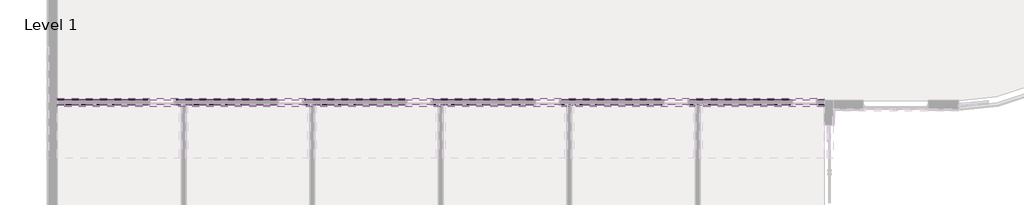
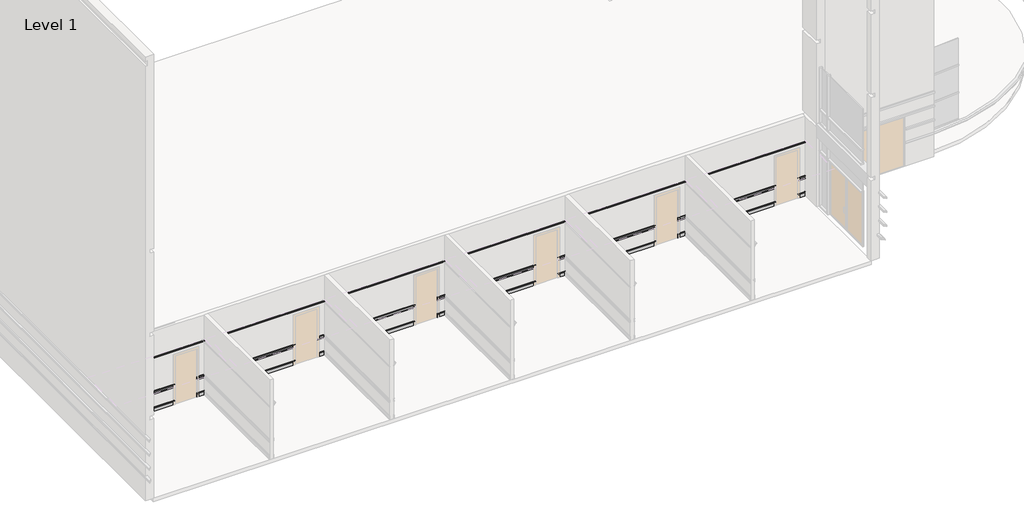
# One storey, part 17 of 20: 6 proxies.
"""IFC4 building model written with IfcOpenShell, lengths in millimetres."""

from ifc_helpers import new_model, si_unit, point, frame, frame_2d, origin, place, context, project, spatial, polyline, circle_curve, trimmed, segment, composite_curve, outline, extrude, element, save

model = new_model("IFC4")

# Units and contexts
model_context = context("Model", 3, world=origin())
ifc_project = project(units=[si_unit("LENGTHUNIT", "METRE", prefix="MILLI")], contexts=[model_context])

# Site, building, storey
site = spatial("IfcSite", under=ifc_project)
building = spatial("IfcBuilding", under=site)
storey = spatial("IfcBuildingStorey", under=building, Name="Level 1", Elevation=0.0)

# Proxies
placement = place(None, origin())
element("IfcBuildingElementProxy", 1, Name="Wall Sweeps", at=placement, inside=storey, context=model_context, shape_type="SweptSolid", body=[
    extrude(outline(composite_curve([segment(polyline([(-9640.0351682, 146.05), (-9637.840893, 146.5164076)]), True, "CONTINUOUS"), segment(trimmed(circle_curve(frame_2d((-9638.0059229, 147.2928122)), 0.79375), [point((-9637.840893, 146.5164076))], [point((-9637.4293377, 147.838329))], True, "CARTESIAN"), True, "CONTINUOUS"), segment(trimmed(circle_curve(frame_2d((-9630.5101681, 154.447453)), 9.5684601), [point((-9637.4293377, 147.838329))], [point((-9638.4249443, 159.8244174))], False, "CARTESIAN"), True, "CONTINUOUS"), segment(polyline([(-9638.4249443, 159.8244174), (-9631.5836514, 169.9015472)]), True, "CONTINUOUS"), segment(trimmed(circle_curve(frame_2d((-9636.8601681, 173.434375)), 6.35), [point((-9631.5836514, 169.9015472))], [point((-9632.9562226, 178.4425393))], True, "CARTESIAN"), True, "CONTINUOUS"), segment(polyline([(-9632.9562226, 178.4425393), (-9630.5101681, 184.15), (-9624.1601681, 184.15), (-9624.1601681, 139.7), (-9625.7476681, 138.1125), (-9625.7476681, 26.9875), (-9624.1601681, 25.4), (-9624.1601681, 0.0), (-9640.0351682, 0.0), (-9640.0351682, 146.05)]), True, "CONTINUOUS")], self_intersect=False)), frame((12403.9089721, 0.0, 0.0), z_axis=(1.0, 0.0, 0.0), x_axis=(0.0, 1.0, 0.0)), (0.0, 0.0, 1.0), 304.8),
    extrude(outline(composite_curve([segment(polyline([(-9640.0351682, 146.05), (-9637.840893, 146.5164076)]), True, "CONTINUOUS"), segment(trimmed(circle_curve(frame_2d((-9638.0059229, 147.2928122)), 0.79375), [point((-9637.840893, 146.5164076))], [point((-9637.4293377, 147.838329))], True, "CARTESIAN"), True, "CONTINUOUS"), segment(trimmed(circle_curve(frame_2d((-9630.5101681, 154.447453)), 9.5684601), [point((-9637.4293377, 147.838329))], [point((-9638.4249443, 159.8244174))], False, "CARTESIAN"), True, "CONTINUOUS"), segment(polyline([(-9638.4249443, 159.8244174), (-9631.5836514, 169.9015472)]), True, "CONTINUOUS"), segment(trimmed(circle_curve(frame_2d((-9636.8601681, 173.434375)), 6.35), [point((-9631.5836514, 169.9015472))], [point((-9632.9562226, 178.4425393))], True, "CARTESIAN"), True, "CONTINUOUS"), segment(polyline([(-9632.9562226, 178.4425393), (-9630.5101681, 184.15), (-9624.1601681, 184.15), (-9624.1601681, 139.7), (-9625.7476681, 138.1125), (-9625.7476681, 26.9875), (-9624.1601681, 25.4), (-9624.1601681, 0.0), (-9640.0351682, 0.0), (-9640.0351682, 146.05)]), True, "CONTINUOUS")], self_intersect=False)), frame((7422.8631388, 0.0, 0.0), z_axis=(1.0, 0.0, 0.0), x_axis=(0.0, 1.0, 0.0)), (0.0, 0.0, 1.0), 4066.6458333),
    extrude(outline(composite_curve([segment(polyline([(-9640.0351682, 146.05), (-9637.840893, 146.5164076)]), True, "CONTINUOUS"), segment(trimmed(circle_curve(frame_2d((-9638.0059229, 147.2928122)), 0.79375), [point((-9637.840893, 146.5164076))], [point((-9637.4293377, 147.838329))], True, "CARTESIAN"), True, "CONTINUOUS"), segment(trimmed(circle_curve(frame_2d((-9630.5101681, 154.447453)), 9.5684601), [point((-9637.4293377, 147.838329))], [point((-9638.4249443, 159.8244174))], False, "CARTESIAN"), True, "CONTINUOUS"), segment(polyline([(-9638.4249443, 159.8244174), (-9631.5836514, 169.9015472)]), True, "CONTINUOUS"), segment(trimmed(circle_curve(frame_2d((-9636.8601681, 173.434375)), 6.35), [point((-9631.5836514, 169.9015472))], [point((-9632.9562226, 178.4425393))], True, "CARTESIAN"), True, "CONTINUOUS"), segment(polyline([(-9632.9562226, 178.4425393), (-9630.5101681, 184.15), (-9624.1601681, 184.15), (-9624.1601681, 139.7), (-9625.7476681, 138.1125), (-9625.7476681, 26.9875), (-9624.1601681, 25.4), (-9624.1601681, 0.0), (-9640.0351682, 0.0), (-9640.0351682, 146.05)]), True, "CONTINUOUS")], self_intersect=False)), frame((2430.7048054, 0.0, 0.0), z_axis=(1.0, 0.0, 0.0), x_axis=(0.0, 1.0, 0.0)), (0.0, 0.0, 1.0), 4077.7583333),
    extrude(outline(composite_curve([segment(polyline([(-9640.0351682, 146.05), (-9637.840893, 146.5164076)]), True, "CONTINUOUS"), segment(trimmed(circle_curve(frame_2d((-9638.0059229, 147.2928122)), 0.79375), [point((-9637.840893, 146.5164076))], [point((-9637.4293377, 147.838329))], True, "CARTESIAN"), True, "CONTINUOUS"), segment(trimmed(circle_curve(frame_2d((-9630.5101681, 154.447453)), 9.5684601), [point((-9637.4293377, 147.838329))], [point((-9638.4249443, 159.8244174))], False, "CARTESIAN"), True, "CONTINUOUS"), segment(polyline([(-9638.4249443, 159.8244174), (-9631.5836514, 169.9015472)]), True, "CONTINUOUS"), segment(trimmed(circle_curve(frame_2d((-9636.8601681, 173.434375)), 6.35), [point((-9631.5836514, 169.9015472))], [point((-9632.9562226, 178.4425393))], True, "CARTESIAN"), True, "CONTINUOUS"), segment(polyline([(-9632.9562226, 178.4425393), (-9630.5101681, 184.15), (-9624.1601681, 184.15), (-9624.1601681, 139.7), (-9625.7476681, 138.1125), (-9625.7476681, 26.9875), (-9624.1601681, 25.4), (-9624.1601681, 0.0), (-9640.0351682, 0.0), (-9640.0351682, 146.05)]), True, "CONTINUOUS")], self_intersect=False)), frame((-2561.4535279, 0.0, 0.0), z_axis=(1.0, 0.0, 0.0), x_axis=(0.0, 1.0, 0.0)), (0.0, 0.0, 1.0), 4077.7583333),
    extrude(outline(composite_curve([segment(polyline([(-9640.0351682, 146.05), (-9637.840893, 146.5164076)]), True, "CONTINUOUS"), segment(trimmed(circle_curve(frame_2d((-9638.0059229, 147.2928122)), 0.79375), [point((-9637.840893, 146.5164076))], [point((-9637.4293377, 147.838329))], True, "CARTESIAN"), True, "CONTINUOUS"), segment(trimmed(circle_curve(frame_2d((-9630.5101681, 154.447453)), 9.5684601), [point((-9637.4293377, 147.838329))], [point((-9638.4249443, 159.8244174))], False, "CARTESIAN"), True, "CONTINUOUS"), segment(polyline([(-9638.4249443, 159.8244174), (-9631.5836514, 169.9015472)]), True, "CONTINUOUS"), segment(trimmed(circle_curve(frame_2d((-9636.8601681, 173.434375)), 6.35), [point((-9631.5836514, 169.9015472))], [point((-9632.9562226, 178.4425393))], True, "CARTESIAN"), True, "CONTINUOUS"), segment(polyline([(-9632.9562226, 178.4425393), (-9630.5101681, 184.15), (-9624.1601681, 184.15), (-9624.1601681, 139.7), (-9625.7476681, 138.1125), (-9625.7476681, 26.9875), (-9624.1601681, 25.4), (-9624.1601681, 0.0), (-9640.0351682, 0.0), (-9640.0351682, 146.05)]), True, "CONTINUOUS")], self_intersect=False)), frame((-7553.6118612, 0.0, 0.0), z_axis=(1.0, 0.0, 0.0), x_axis=(0.0, 1.0, 0.0)), (0.0, 0.0, 1.0), 4077.7583333),
    extrude(outline(composite_curve([segment(polyline([(-9640.0351682, 146.05), (-9637.840893, 146.5164076)]), True, "CONTINUOUS"), segment(trimmed(circle_curve(frame_2d((-9638.0059229, 147.2928122)), 0.79375), [point((-9637.840893, 146.5164076))], [point((-9637.4293377, 147.838329))], True, "CARTESIAN"), True, "CONTINUOUS"), segment(trimmed(circle_curve(frame_2d((-9630.5101681, 154.447453)), 9.5684601), [point((-9637.4293377, 147.838329))], [point((-9638.4249443, 159.8244174))], False, "CARTESIAN"), True, "CONTINUOUS"), segment(polyline([(-9638.4249443, 159.8244174), (-9631.5836514, 169.9015472)]), True, "CONTINUOUS"), segment(trimmed(circle_curve(frame_2d((-9636.8601681, 173.434375)), 6.35), [point((-9631.5836514, 169.9015472))], [point((-9632.9562226, 178.4425393))], True, "CARTESIAN"), True, "CONTINUOUS"), segment(polyline([(-9632.9562226, 178.4425393), (-9630.5101681, 184.15), (-9624.1601681, 184.15), (-9624.1601681, 139.7), (-9625.7476681, 138.1125), (-9625.7476681, 26.9875), (-9624.1601681, 25.4), (-9624.1601681, 0.0), (-9640.0351682, 0.0), (-9640.0351682, 146.05)]), True, "CONTINUOUS")], self_intersect=False)), frame((-12545.7701946, 0.0, 0.0), z_axis=(1.0, 0.0, 0.0), x_axis=(0.0, 1.0, 0.0)), (0.0, 0.0, 1.0), 4077.7583333),
    extrude(outline(composite_curve([segment(polyline([(-9640.0351682, 146.05), (-9637.840893, 146.5164076)]), True, "CONTINUOUS"), segment(trimmed(circle_curve(frame_2d((-9638.0059229, 147.2928122)), 0.79375), [point((-9637.840893, 146.5164076))], [point((-9637.4293377, 147.838329))], True, "CARTESIAN"), True, "CONTINUOUS"), segment(trimmed(circle_curve(frame_2d((-9630.5101681, 154.447453)), 9.5684601), [point((-9637.4293377, 147.838329))], [point((-9638.4249443, 159.8244174))], False, "CARTESIAN"), True, "CONTINUOUS"), segment(polyline([(-9638.4249443, 159.8244174), (-9631.5836514, 169.9015472)]), True, "CONTINUOUS"), segment(trimmed(circle_curve(frame_2d((-9636.8601681, 173.434375)), 6.35), [point((-9631.5836514, 169.9015472))], [point((-9632.9562226, 178.4425393))], True, "CARTESIAN"), True, "CONTINUOUS"), segment(polyline([(-9632.9562226, 178.4425393), (-9630.5101681, 184.15), (-9624.1601681, 184.15), (-9624.1601681, 139.7), (-9625.7476681, 138.1125), (-9625.7476681, 26.9875), (-9624.1601681, 25.4), (-9624.1601681, 0.0), (-9640.0351682, 0.0), (-9640.0351682, 146.05)]), True, "CONTINUOUS")], self_intersect=False)), frame((-17066.4410279, 0.0, 0.0), z_axis=(1.0, 0.0, 0.0), x_axis=(0.0, 1.0, 0.0)), (0.0, 0.0, 1.0), 3606.2708333),
])
element("IfcBuildingElementProxy", 2, Name="Wall Sweeps", at=placement, inside=storey, context=model_context, shape_type="SweptSolid", body=[
    extrude(outline(composite_curve([segment(polyline([(-9452.710168, 146.05), (-9452.710168, 0.0), (-9468.5851681, 0.0), (-9468.5851681, 25.4), (-9466.9976681, 26.9875), (-9466.9976681, 138.1125), (-9468.5851681, 139.7), (-9468.5851681, 184.15), (-9462.2351681, 184.15), (-9459.7891135, 178.4425393)]), True, "CONTINUOUS"), segment(trimmed(circle_curve(frame_2d((-9455.8851681, 173.434375)), 6.35), [point((-9459.7891135, 178.4425393))], [point((-9461.1616847, 169.9015472))], True, "CARTESIAN"), True, "CONTINUOUS"), segment(polyline([(-9461.1616847, 169.9015472), (-9454.3203919, 159.8244174)]), True, "CONTINUOUS"), segment(trimmed(circle_curve(frame_2d((-9462.2351681, 154.447453)), 9.5684601), [point((-9454.3203919, 159.8244174))], [point((-9455.3159985, 147.838329))], False, "CARTESIAN"), True, "CONTINUOUS"), segment(trimmed(circle_curve(frame_2d((-9454.7394132, 147.2928122)), 0.79375), [point((-9455.3159985, 147.838329))], [point((-9454.9044431, 146.5164076))], True, "CARTESIAN"), True, "CONTINUOUS"), segment(polyline([(-9454.9044431, 146.5164076), (-9452.710168, 146.05)]), True, "CONTINUOUS")], self_intersect=False)), frame((-17066.4410279, 0.0, 0.0), z_axis=(1.0, 0.0, 0.0), x_axis=(0.0, 1.0, 0.0)), (0.0, 0.0, 1.0), 3606.2708333),
    extrude(outline(composite_curve([segment(polyline([(-9452.710168, 146.05), (-9452.710168, 0.0), (-9468.5851681, 0.0), (-9468.5851681, 25.4), (-9466.9976681, 26.9875), (-9466.9976681, 138.1125), (-9468.5851681, 139.7), (-9468.5851681, 184.15), (-9462.2351681, 184.15), (-9459.7891135, 178.4425393)]), True, "CONTINUOUS"), segment(trimmed(circle_curve(frame_2d((-9455.8851681, 173.434375)), 6.35), [point((-9459.7891135, 178.4425393))], [point((-9461.1616847, 169.9015472))], True, "CARTESIAN"), True, "CONTINUOUS"), segment(polyline([(-9461.1616847, 169.9015472), (-9454.3203919, 159.8244174)]), True, "CONTINUOUS"), segment(trimmed(circle_curve(frame_2d((-9462.2351681, 154.447453)), 9.5684601), [point((-9454.3203919, 159.8244174))], [point((-9455.3159985, 147.838329))], False, "CARTESIAN"), True, "CONTINUOUS"), segment(trimmed(circle_curve(frame_2d((-9454.7394132, 147.2928122)), 0.79375), [point((-9455.3159985, 147.838329))], [point((-9454.9044431, 146.5164076))], True, "CARTESIAN"), True, "CONTINUOUS"), segment(polyline([(-9454.9044431, 146.5164076), (-9452.710168, 146.05)]), True, "CONTINUOUS")], self_intersect=False)), frame((-12545.7701946, 0.0, 0.0), z_axis=(1.0, 0.0, 0.0), x_axis=(0.0, 1.0, 0.0)), (0.0, 0.0, 1.0), 4077.7583333),
    extrude(outline(composite_curve([segment(polyline([(-9452.710168, 146.05), (-9452.710168, 0.0), (-9468.5851681, 0.0), (-9468.5851681, 25.4), (-9466.9976681, 26.9875), (-9466.9976681, 138.1125), (-9468.5851681, 139.7), (-9468.5851681, 184.15), (-9462.2351681, 184.15), (-9459.7891135, 178.4425393)]), True, "CONTINUOUS"), segment(trimmed(circle_curve(frame_2d((-9455.8851681, 173.434375)), 6.35), [point((-9459.7891135, 178.4425393))], [point((-9461.1616847, 169.9015472))], True, "CARTESIAN"), True, "CONTINUOUS"), segment(polyline([(-9461.1616847, 169.9015472), (-9454.3203919, 159.8244174)]), True, "CONTINUOUS"), segment(trimmed(circle_curve(frame_2d((-9462.2351681, 154.447453)), 9.5684601), [point((-9454.3203919, 159.8244174))], [point((-9455.3159985, 147.838329))], False, "CARTESIAN"), True, "CONTINUOUS"), segment(trimmed(circle_curve(frame_2d((-9454.7394132, 147.2928122)), 0.79375), [point((-9455.3159985, 147.838329))], [point((-9454.9044431, 146.5164076))], True, "CARTESIAN"), True, "CONTINUOUS"), segment(polyline([(-9454.9044431, 146.5164076), (-9452.710168, 146.05)]), True, "CONTINUOUS")], self_intersect=False)), frame((-7553.6118612, 0.0, 0.0), z_axis=(1.0, 0.0, 0.0), x_axis=(0.0, 1.0, 0.0)), (0.0, 0.0, 1.0), 4077.7583333),
    extrude(outline(composite_curve([segment(polyline([(-9452.710168, 146.05), (-9452.710168, 0.0), (-9468.5851681, 0.0), (-9468.5851681, 25.4), (-9466.9976681, 26.9875), (-9466.9976681, 138.1125), (-9468.5851681, 139.7), (-9468.5851681, 184.15), (-9462.2351681, 184.15), (-9459.7891135, 178.4425393)]), True, "CONTINUOUS"), segment(trimmed(circle_curve(frame_2d((-9455.8851681, 173.434375)), 6.35), [point((-9459.7891135, 178.4425393))], [point((-9461.1616847, 169.9015472))], True, "CARTESIAN"), True, "CONTINUOUS"), segment(polyline([(-9461.1616847, 169.9015472), (-9454.3203919, 159.8244174)]), True, "CONTINUOUS"), segment(trimmed(circle_curve(frame_2d((-9462.2351681, 154.447453)), 9.5684601), [point((-9454.3203919, 159.8244174))], [point((-9455.3159985, 147.838329))], False, "CARTESIAN"), True, "CONTINUOUS"), segment(trimmed(circle_curve(frame_2d((-9454.7394132, 147.2928122)), 0.79375), [point((-9455.3159985, 147.838329))], [point((-9454.9044431, 146.5164076))], True, "CARTESIAN"), True, "CONTINUOUS"), segment(polyline([(-9454.9044431, 146.5164076), (-9452.710168, 146.05)]), True, "CONTINUOUS")], self_intersect=False)), frame((-2561.4535279, 0.0, 0.0), z_axis=(1.0, 0.0, 0.0), x_axis=(0.0, 1.0, 0.0)), (0.0, 0.0, 1.0), 4077.7583333),
    extrude(outline(composite_curve([segment(polyline([(-9452.710168, 146.05), (-9452.710168, 0.0), (-9468.5851681, 0.0), (-9468.5851681, 25.4), (-9466.9976681, 26.9875), (-9466.9976681, 138.1125), (-9468.5851681, 139.7), (-9468.5851681, 184.15), (-9462.2351681, 184.15), (-9459.7891135, 178.4425393)]), True, "CONTINUOUS"), segment(trimmed(circle_curve(frame_2d((-9455.8851681, 173.434375)), 6.35), [point((-9459.7891135, 178.4425393))], [point((-9461.1616847, 169.9015472))], True, "CARTESIAN"), True, "CONTINUOUS"), segment(polyline([(-9461.1616847, 169.9015472), (-9454.3203919, 159.8244174)]), True, "CONTINUOUS"), segment(trimmed(circle_curve(frame_2d((-9462.2351681, 154.447453)), 9.5684601), [point((-9454.3203919, 159.8244174))], [point((-9455.3159985, 147.838329))], False, "CARTESIAN"), True, "CONTINUOUS"), segment(trimmed(circle_curve(frame_2d((-9454.7394132, 147.2928122)), 0.79375), [point((-9455.3159985, 147.838329))], [point((-9454.9044431, 146.5164076))], True, "CARTESIAN"), True, "CONTINUOUS"), segment(polyline([(-9454.9044431, 146.5164076), (-9452.710168, 146.05)]), True, "CONTINUOUS")], self_intersect=False)), frame((2430.7048054, 0.0, 0.0), z_axis=(1.0, 0.0, 0.0), x_axis=(0.0, 1.0, 0.0)), (0.0, 0.0, 1.0), 4077.7583333),
    extrude(outline(composite_curve([segment(polyline([(-9452.710168, 146.05), (-9452.710168, 0.0), (-9468.5851681, 0.0), (-9468.5851681, 25.4), (-9466.9976681, 26.9875), (-9466.9976681, 138.1125), (-9468.5851681, 139.7), (-9468.5851681, 184.15), (-9462.2351681, 184.15), (-9459.7891135, 178.4425393)]), True, "CONTINUOUS"), segment(trimmed(circle_curve(frame_2d((-9455.8851681, 173.434375)), 6.35), [point((-9459.7891135, 178.4425393))], [point((-9461.1616847, 169.9015472))], True, "CARTESIAN"), True, "CONTINUOUS"), segment(polyline([(-9461.1616847, 169.9015472), (-9454.3203919, 159.8244174)]), True, "CONTINUOUS"), segment(trimmed(circle_curve(frame_2d((-9462.2351681, 154.447453)), 9.5684601), [point((-9454.3203919, 159.8244174))], [point((-9455.3159985, 147.838329))], False, "CARTESIAN"), True, "CONTINUOUS"), segment(trimmed(circle_curve(frame_2d((-9454.7394132, 147.2928122)), 0.79375), [point((-9455.3159985, 147.838329))], [point((-9454.9044431, 146.5164076))], True, "CARTESIAN"), True, "CONTINUOUS"), segment(polyline([(-9454.9044431, 146.5164076), (-9452.710168, 146.05)]), True, "CONTINUOUS")], self_intersect=False)), frame((7422.8631388, 0.0, 0.0), z_axis=(1.0, 0.0, 0.0), x_axis=(0.0, 1.0, 0.0)), (0.0, 0.0, 1.0), 4066.6458333),
    extrude(outline(composite_curve([segment(polyline([(-9452.710168, 146.05), (-9452.710168, 0.0), (-9468.5851681, 0.0), (-9468.5851681, 25.4), (-9466.9976681, 26.9875), (-9466.9976681, 138.1125), (-9468.5851681, 139.7), (-9468.5851681, 184.15), (-9462.2351681, 184.15), (-9459.7891135, 178.4425393)]), True, "CONTINUOUS"), segment(trimmed(circle_curve(frame_2d((-9455.8851681, 173.434375)), 6.35), [point((-9459.7891135, 178.4425393))], [point((-9461.1616847, 169.9015472))], True, "CARTESIAN"), True, "CONTINUOUS"), segment(polyline([(-9461.1616847, 169.9015472), (-9454.3203919, 159.8244174)]), True, "CONTINUOUS"), segment(trimmed(circle_curve(frame_2d((-9462.2351681, 154.447453)), 9.5684601), [point((-9454.3203919, 159.8244174))], [point((-9455.3159985, 147.838329))], False, "CARTESIAN"), True, "CONTINUOUS"), segment(trimmed(circle_curve(frame_2d((-9454.7394132, 147.2928122)), 0.79375), [point((-9455.3159985, 147.838329))], [point((-9454.9044431, 146.5164076))], True, "CARTESIAN"), True, "CONTINUOUS"), segment(polyline([(-9454.9044431, 146.5164076), (-9452.710168, 146.05)]), True, "CONTINUOUS")], self_intersect=False)), frame((12403.9089721, 0.0, 0.0), z_axis=(1.0, 0.0, 0.0), x_axis=(0.0, 1.0, 0.0)), (0.0, 0.0, 1.0), 304.8),
])
element("IfcBuildingElementProxy", 3, Name="Wall Sweeps", at=placement, inside=storey, context=model_context, shape_type="SweptSolid", body=[
    extrude(outline(composite_curve([segment(polyline([(-9625.7476681, 781.05), (-9624.1601681, 779.4625), (-9624.1601681, 762.0), (-9644.7976681, 762.0), (-9644.7976681, 781.05), (-9642.4164181, 781.05)]), True, "CONTINUOUS"), segment(trimmed(circle_curve(frame_2d((-9637.3963023, 783.43125)), 5.55625), [point((-9642.4164181, 781.05))], [point((-9641.3251643, 787.3601121))], False, "CARTESIAN"), True, "CONTINUOUS"), segment(trimmed(circle_curve(frame_2d((-9649.1119874, 796.1135672)), 11.7156984), [point((-9641.3251643, 787.3601121))], [point((-9637.3963023, 796.13125))], True, "CARTESIAN"), True, "CONTINUOUS"), segment(polyline([(-9637.3963023, 796.13125), (-9635.2726681, 796.13125), (-9635.2726681, 867.56875), (-9637.3963023, 867.56875)]), True, "CONTINUOUS"), segment(trimmed(circle_curve(frame_2d((-9649.1119874, 867.5864328)), 11.7156984), [point((-9637.3963023, 867.56875))], [point((-9641.3251643, 876.3398879))], True, "CARTESIAN"), True, "CONTINUOUS"), segment(trimmed(circle_curve(frame_2d((-9637.3963023, 880.26875)), 5.55625), [point((-9641.3251643, 876.3398879))], [point((-9642.4164181, 882.65))], False, "CARTESIAN"), True, "CONTINUOUS"), segment(polyline([(-9642.4164181, 882.65), (-9644.7976681, 882.65), (-9644.7976681, 901.7), (-9624.1601681, 901.7), (-9624.1601681, 884.2375), (-9625.7476681, 882.65), (-9625.7476681, 781.05)]), True, "CONTINUOUS")], self_intersect=False)), frame((12403.9089721, 0.0, 0.0), z_axis=(1.0, 0.0, 0.0), x_axis=(0.0, 1.0, 0.0)), (0.0, 0.0, 1.0), 304.8),
    extrude(outline(composite_curve([segment(polyline([(-9625.7476681, 781.05), (-9624.1601681, 779.4625), (-9624.1601681, 762.0), (-9644.7976681, 762.0), (-9644.7976681, 781.05), (-9642.4164181, 781.05)]), True, "CONTINUOUS"), segment(trimmed(circle_curve(frame_2d((-9637.3963023, 783.43125)), 5.55625), [point((-9642.4164181, 781.05))], [point((-9641.3251643, 787.3601121))], False, "CARTESIAN"), True, "CONTINUOUS"), segment(trimmed(circle_curve(frame_2d((-9649.1119874, 796.1135672)), 11.7156984), [point((-9641.3251643, 787.3601121))], [point((-9637.3963023, 796.13125))], True, "CARTESIAN"), True, "CONTINUOUS"), segment(polyline([(-9637.3963023, 796.13125), (-9635.2726681, 796.13125), (-9635.2726681, 867.56875), (-9637.3963023, 867.56875)]), True, "CONTINUOUS"), segment(trimmed(circle_curve(frame_2d((-9649.1119874, 867.5864328)), 11.7156984), [point((-9637.3963023, 867.56875))], [point((-9641.3251643, 876.3398879))], True, "CARTESIAN"), True, "CONTINUOUS"), segment(trimmed(circle_curve(frame_2d((-9637.3963023, 880.26875)), 5.55625), [point((-9641.3251643, 876.3398879))], [point((-9642.4164181, 882.65))], False, "CARTESIAN"), True, "CONTINUOUS"), segment(polyline([(-9642.4164181, 882.65), (-9644.7976681, 882.65), (-9644.7976681, 901.7), (-9624.1601681, 901.7), (-9624.1601681, 884.2375), (-9625.7476681, 882.65), (-9625.7476681, 781.05)]), True, "CONTINUOUS")], self_intersect=False)), frame((7422.8631388, 0.0, 0.0), z_axis=(1.0, 0.0, 0.0), x_axis=(0.0, 1.0, 0.0)), (0.0, 0.0, 1.0), 4066.6458333),
    extrude(outline(composite_curve([segment(polyline([(-9625.7476681, 781.05), (-9624.1601681, 779.4625), (-9624.1601681, 762.0), (-9644.7976681, 762.0), (-9644.7976681, 781.05), (-9642.4164181, 781.05)]), True, "CONTINUOUS"), segment(trimmed(circle_curve(frame_2d((-9637.3963023, 783.43125)), 5.55625), [point((-9642.4164181, 781.05))], [point((-9641.3251643, 787.3601121))], False, "CARTESIAN"), True, "CONTINUOUS"), segment(trimmed(circle_curve(frame_2d((-9649.1119874, 796.1135672)), 11.7156984), [point((-9641.3251643, 787.3601121))], [point((-9637.3963023, 796.13125))], True, "CARTESIAN"), True, "CONTINUOUS"), segment(polyline([(-9637.3963023, 796.13125), (-9635.2726681, 796.13125), (-9635.2726681, 867.56875), (-9637.3963023, 867.56875)]), True, "CONTINUOUS"), segment(trimmed(circle_curve(frame_2d((-9649.1119874, 867.5864328)), 11.7156984), [point((-9637.3963023, 867.56875))], [point((-9641.3251643, 876.3398879))], True, "CARTESIAN"), True, "CONTINUOUS"), segment(trimmed(circle_curve(frame_2d((-9637.3963023, 880.26875)), 5.55625), [point((-9641.3251643, 876.3398879))], [point((-9642.4164181, 882.65))], False, "CARTESIAN"), True, "CONTINUOUS"), segment(polyline([(-9642.4164181, 882.65), (-9644.7976681, 882.65), (-9644.7976681, 901.7), (-9624.1601681, 901.7), (-9624.1601681, 884.2375), (-9625.7476681, 882.65), (-9625.7476681, 781.05)]), True, "CONTINUOUS")], self_intersect=False)), frame((2430.7048054, 0.0, 0.0), z_axis=(1.0, 0.0, 0.0), x_axis=(0.0, 1.0, 0.0)), (0.0, 0.0, 1.0), 4077.7583333),
    extrude(outline(composite_curve([segment(polyline([(-9625.7476681, 781.05), (-9624.1601681, 779.4625), (-9624.1601681, 762.0), (-9644.7976681, 762.0), (-9644.7976681, 781.05), (-9642.4164181, 781.05)]), True, "CONTINUOUS"), segment(trimmed(circle_curve(frame_2d((-9637.3963023, 783.43125)), 5.55625), [point((-9642.4164181, 781.05))], [point((-9641.3251643, 787.3601121))], False, "CARTESIAN"), True, "CONTINUOUS"), segment(trimmed(circle_curve(frame_2d((-9649.1119874, 796.1135672)), 11.7156984), [point((-9641.3251643, 787.3601121))], [point((-9637.3963023, 796.13125))], True, "CARTESIAN"), True, "CONTINUOUS"), segment(polyline([(-9637.3963023, 796.13125), (-9635.2726681, 796.13125), (-9635.2726681, 867.56875), (-9637.3963023, 867.56875)]), True, "CONTINUOUS"), segment(trimmed(circle_curve(frame_2d((-9649.1119874, 867.5864328)), 11.7156984), [point((-9637.3963023, 867.56875))], [point((-9641.3251643, 876.3398879))], True, "CARTESIAN"), True, "CONTINUOUS"), segment(trimmed(circle_curve(frame_2d((-9637.3963023, 880.26875)), 5.55625), [point((-9641.3251643, 876.3398879))], [point((-9642.4164181, 882.65))], False, "CARTESIAN"), True, "CONTINUOUS"), segment(polyline([(-9642.4164181, 882.65), (-9644.7976681, 882.65), (-9644.7976681, 901.7), (-9624.1601681, 901.7), (-9624.1601681, 884.2375), (-9625.7476681, 882.65), (-9625.7476681, 781.05)]), True, "CONTINUOUS")], self_intersect=False)), frame((-2561.4535279, 0.0, 0.0), z_axis=(1.0, 0.0, 0.0), x_axis=(0.0, 1.0, 0.0)), (0.0, 0.0, 1.0), 4077.7583333),
    extrude(outline(composite_curve([segment(polyline([(-9625.7476681, 781.05), (-9624.1601681, 779.4625), (-9624.1601681, 762.0), (-9644.7976681, 762.0), (-9644.7976681, 781.05), (-9642.4164181, 781.05)]), True, "CONTINUOUS"), segment(trimmed(circle_curve(frame_2d((-9637.3963023, 783.43125)), 5.55625), [point((-9642.4164181, 781.05))], [point((-9641.3251643, 787.3601121))], False, "CARTESIAN"), True, "CONTINUOUS"), segment(trimmed(circle_curve(frame_2d((-9649.1119874, 796.1135672)), 11.7156984), [point((-9641.3251643, 787.3601121))], [point((-9637.3963023, 796.13125))], True, "CARTESIAN"), True, "CONTINUOUS"), segment(polyline([(-9637.3963023, 796.13125), (-9635.2726681, 796.13125), (-9635.2726681, 867.56875), (-9637.3963023, 867.56875)]), True, "CONTINUOUS"), segment(trimmed(circle_curve(frame_2d((-9649.1119874, 867.5864328)), 11.7156984), [point((-9637.3963023, 867.56875))], [point((-9641.3251643, 876.3398879))], True, "CARTESIAN"), True, "CONTINUOUS"), segment(trimmed(circle_curve(frame_2d((-9637.3963023, 880.26875)), 5.55625), [point((-9641.3251643, 876.3398879))], [point((-9642.4164181, 882.65))], False, "CARTESIAN"), True, "CONTINUOUS"), segment(polyline([(-9642.4164181, 882.65), (-9644.7976681, 882.65), (-9644.7976681, 901.7), (-9624.1601681, 901.7), (-9624.1601681, 884.2375), (-9625.7476681, 882.65), (-9625.7476681, 781.05)]), True, "CONTINUOUS")], self_intersect=False)), frame((-7553.6118612, 0.0, 0.0), z_axis=(1.0, 0.0, 0.0), x_axis=(0.0, 1.0, 0.0)), (0.0, 0.0, 1.0), 4077.7583333),
    extrude(outline(composite_curve([segment(polyline([(-9625.7476681, 781.05), (-9624.1601681, 779.4625), (-9624.1601681, 762.0), (-9644.7976681, 762.0), (-9644.7976681, 781.05), (-9642.4164181, 781.05)]), True, "CONTINUOUS"), segment(trimmed(circle_curve(frame_2d((-9637.3963023, 783.43125)), 5.55625), [point((-9642.4164181, 781.05))], [point((-9641.3251643, 787.3601121))], False, "CARTESIAN"), True, "CONTINUOUS"), segment(trimmed(circle_curve(frame_2d((-9649.1119874, 796.1135672)), 11.7156984), [point((-9641.3251643, 787.3601121))], [point((-9637.3963023, 796.13125))], True, "CARTESIAN"), True, "CONTINUOUS"), segment(polyline([(-9637.3963023, 796.13125), (-9635.2726681, 796.13125), (-9635.2726681, 867.56875), (-9637.3963023, 867.56875)]), True, "CONTINUOUS"), segment(trimmed(circle_curve(frame_2d((-9649.1119874, 867.5864328)), 11.7156984), [point((-9637.3963023, 867.56875))], [point((-9641.3251643, 876.3398879))], True, "CARTESIAN"), True, "CONTINUOUS"), segment(trimmed(circle_curve(frame_2d((-9637.3963023, 880.26875)), 5.55625), [point((-9641.3251643, 876.3398879))], [point((-9642.4164181, 882.65))], False, "CARTESIAN"), True, "CONTINUOUS"), segment(polyline([(-9642.4164181, 882.65), (-9644.7976681, 882.65), (-9644.7976681, 901.7), (-9624.1601681, 901.7), (-9624.1601681, 884.2375), (-9625.7476681, 882.65), (-9625.7476681, 781.05)]), True, "CONTINUOUS")], self_intersect=False)), frame((-12545.7701946, 0.0, 0.0), z_axis=(1.0, 0.0, 0.0), x_axis=(0.0, 1.0, 0.0)), (0.0, 0.0, 1.0), 4077.7583333),
    extrude(outline(composite_curve([segment(polyline([(-9625.7476681, 781.05), (-9624.1601681, 779.4625), (-9624.1601681, 762.0), (-9644.7976681, 762.0), (-9644.7976681, 781.05), (-9642.4164181, 781.05)]), True, "CONTINUOUS"), segment(trimmed(circle_curve(frame_2d((-9637.3963023, 783.43125)), 5.55625), [point((-9642.4164181, 781.05))], [point((-9641.3251643, 787.3601121))], False, "CARTESIAN"), True, "CONTINUOUS"), segment(trimmed(circle_curve(frame_2d((-9649.1119874, 796.1135672)), 11.7156984), [point((-9641.3251643, 787.3601121))], [point((-9637.3963023, 796.13125))], True, "CARTESIAN"), True, "CONTINUOUS"), segment(polyline([(-9637.3963023, 796.13125), (-9635.2726681, 796.13125), (-9635.2726681, 867.56875), (-9637.3963023, 867.56875)]), True, "CONTINUOUS"), segment(trimmed(circle_curve(frame_2d((-9649.1119874, 867.5864328)), 11.7156984), [point((-9637.3963023, 867.56875))], [point((-9641.3251643, 876.3398879))], True, "CARTESIAN"), True, "CONTINUOUS"), segment(trimmed(circle_curve(frame_2d((-9637.3963023, 880.26875)), 5.55625), [point((-9641.3251643, 876.3398879))], [point((-9642.4164181, 882.65))], False, "CARTESIAN"), True, "CONTINUOUS"), segment(polyline([(-9642.4164181, 882.65), (-9644.7976681, 882.65), (-9644.7976681, 901.7), (-9624.1601681, 901.7), (-9624.1601681, 884.2375), (-9625.7476681, 882.65), (-9625.7476681, 781.05)]), True, "CONTINUOUS")], self_intersect=False)), frame((-17066.4410279, 0.0, 0.0), z_axis=(1.0, 0.0, 0.0), x_axis=(0.0, 1.0, 0.0)), (0.0, 0.0, 1.0), 3606.2708333),
])
element("IfcBuildingElementProxy", 4, Name="Wall Sweeps", at=placement, inside=storey, context=model_context, shape_type="SweptSolid", body=[
    extrude(outline(composite_curve([segment(polyline([(-9466.9976681, 781.05), (-9466.9976681, 882.65), (-9468.5851681, 884.2375), (-9468.5851681, 901.7), (-9447.9476681, 901.7), (-9447.9476681, 882.65), (-9450.3289181, 882.65)]), True, "CONTINUOUS"), segment(trimmed(circle_curve(frame_2d((-9455.3490339, 880.26875)), 5.55625), [point((-9450.3289181, 882.65))], [point((-9451.4201718, 876.3398879))], False, "CARTESIAN"), True, "CONTINUOUS"), segment(trimmed(circle_curve(frame_2d((-9443.6333488, 867.5864328)), 11.7156984), [point((-9451.4201718, 876.3398879))], [point((-9455.3490339, 867.56875))], True, "CARTESIAN"), True, "CONTINUOUS"), segment(polyline([(-9455.3490339, 867.56875), (-9457.4726681, 867.56875), (-9457.4726681, 796.13125), (-9455.3490339, 796.13125)]), True, "CONTINUOUS"), segment(trimmed(circle_curve(frame_2d((-9443.6333488, 796.1135672)), 11.7156984), [point((-9455.3490339, 796.13125))], [point((-9451.4201718, 787.3601121))], True, "CARTESIAN"), True, "CONTINUOUS"), segment(trimmed(circle_curve(frame_2d((-9455.3490339, 783.43125)), 5.55625), [point((-9451.4201718, 787.3601121))], [point((-9450.3289181, 781.05))], False, "CARTESIAN"), True, "CONTINUOUS"), segment(polyline([(-9450.3289181, 781.05), (-9447.9476681, 781.05), (-9447.9476681, 762.0), (-9468.5851681, 762.0), (-9468.5851681, 779.4625), (-9466.9976681, 781.05)]), True, "CONTINUOUS")], self_intersect=False)), frame((-17066.4410279, 0.0, 0.0), z_axis=(1.0, 0.0, 0.0), x_axis=(0.0, 1.0, 0.0)), (0.0, 0.0, 1.0), 3606.2708333),
    extrude(outline(composite_curve([segment(polyline([(-9466.9976681, 781.05), (-9466.9976681, 882.65), (-9468.5851681, 884.2375), (-9468.5851681, 901.7), (-9447.9476681, 901.7), (-9447.9476681, 882.65), (-9450.3289181, 882.65)]), True, "CONTINUOUS"), segment(trimmed(circle_curve(frame_2d((-9455.3490339, 880.26875)), 5.55625), [point((-9450.3289181, 882.65))], [point((-9451.4201718, 876.3398879))], False, "CARTESIAN"), True, "CONTINUOUS"), segment(trimmed(circle_curve(frame_2d((-9443.6333488, 867.5864328)), 11.7156984), [point((-9451.4201718, 876.3398879))], [point((-9455.3490339, 867.56875))], True, "CARTESIAN"), True, "CONTINUOUS"), segment(polyline([(-9455.3490339, 867.56875), (-9457.4726681, 867.56875), (-9457.4726681, 796.13125), (-9455.3490339, 796.13125)]), True, "CONTINUOUS"), segment(trimmed(circle_curve(frame_2d((-9443.6333488, 796.1135672)), 11.7156984), [point((-9455.3490339, 796.13125))], [point((-9451.4201718, 787.3601121))], True, "CARTESIAN"), True, "CONTINUOUS"), segment(trimmed(circle_curve(frame_2d((-9455.3490339, 783.43125)), 5.55625), [point((-9451.4201718, 787.3601121))], [point((-9450.3289181, 781.05))], False, "CARTESIAN"), True, "CONTINUOUS"), segment(polyline([(-9450.3289181, 781.05), (-9447.9476681, 781.05), (-9447.9476681, 762.0), (-9468.5851681, 762.0), (-9468.5851681, 779.4625), (-9466.9976681, 781.05)]), True, "CONTINUOUS")], self_intersect=False)), frame((-12545.7701946, 0.0, 0.0), z_axis=(1.0, 0.0, 0.0), x_axis=(0.0, 1.0, 0.0)), (0.0, 0.0, 1.0), 4077.7583333),
    extrude(outline(composite_curve([segment(polyline([(-9466.9976681, 781.05), (-9466.9976681, 882.65), (-9468.5851681, 884.2375), (-9468.5851681, 901.7), (-9447.9476681, 901.7), (-9447.9476681, 882.65), (-9450.3289181, 882.65)]), True, "CONTINUOUS"), segment(trimmed(circle_curve(frame_2d((-9455.3490339, 880.26875)), 5.55625), [point((-9450.3289181, 882.65))], [point((-9451.4201718, 876.3398879))], False, "CARTESIAN"), True, "CONTINUOUS"), segment(trimmed(circle_curve(frame_2d((-9443.6333488, 867.5864328)), 11.7156984), [point((-9451.4201718, 876.3398879))], [point((-9455.3490339, 867.56875))], True, "CARTESIAN"), True, "CONTINUOUS"), segment(polyline([(-9455.3490339, 867.56875), (-9457.4726681, 867.56875), (-9457.4726681, 796.13125), (-9455.3490339, 796.13125)]), True, "CONTINUOUS"), segment(trimmed(circle_curve(frame_2d((-9443.6333488, 796.1135672)), 11.7156984), [point((-9455.3490339, 796.13125))], [point((-9451.4201718, 787.3601121))], True, "CARTESIAN"), True, "CONTINUOUS"), segment(trimmed(circle_curve(frame_2d((-9455.3490339, 783.43125)), 5.55625), [point((-9451.4201718, 787.3601121))], [point((-9450.3289181, 781.05))], False, "CARTESIAN"), True, "CONTINUOUS"), segment(polyline([(-9450.3289181, 781.05), (-9447.9476681, 781.05), (-9447.9476681, 762.0), (-9468.5851681, 762.0), (-9468.5851681, 779.4625), (-9466.9976681, 781.05)]), True, "CONTINUOUS")], self_intersect=False)), frame((-7553.6118612, 0.0, 0.0), z_axis=(1.0, 0.0, 0.0), x_axis=(0.0, 1.0, 0.0)), (0.0, 0.0, 1.0), 4077.7583333),
    extrude(outline(composite_curve([segment(polyline([(-9466.9976681, 781.05), (-9466.9976681, 882.65), (-9468.5851681, 884.2375), (-9468.5851681, 901.7), (-9447.9476681, 901.7), (-9447.9476681, 882.65), (-9450.3289181, 882.65)]), True, "CONTINUOUS"), segment(trimmed(circle_curve(frame_2d((-9455.3490339, 880.26875)), 5.55625), [point((-9450.3289181, 882.65))], [point((-9451.4201718, 876.3398879))], False, "CARTESIAN"), True, "CONTINUOUS"), segment(trimmed(circle_curve(frame_2d((-9443.6333488, 867.5864328)), 11.7156984), [point((-9451.4201718, 876.3398879))], [point((-9455.3490339, 867.56875))], True, "CARTESIAN"), True, "CONTINUOUS"), segment(polyline([(-9455.3490339, 867.56875), (-9457.4726681, 867.56875), (-9457.4726681, 796.13125), (-9455.3490339, 796.13125)]), True, "CONTINUOUS"), segment(trimmed(circle_curve(frame_2d((-9443.6333488, 796.1135672)), 11.7156984), [point((-9455.3490339, 796.13125))], [point((-9451.4201718, 787.3601121))], True, "CARTESIAN"), True, "CONTINUOUS"), segment(trimmed(circle_curve(frame_2d((-9455.3490339, 783.43125)), 5.55625), [point((-9451.4201718, 787.3601121))], [point((-9450.3289181, 781.05))], False, "CARTESIAN"), True, "CONTINUOUS"), segment(polyline([(-9450.3289181, 781.05), (-9447.9476681, 781.05), (-9447.9476681, 762.0), (-9468.5851681, 762.0), (-9468.5851681, 779.4625), (-9466.9976681, 781.05)]), True, "CONTINUOUS")], self_intersect=False)), frame((-2561.4535279, 0.0, 0.0), z_axis=(1.0, 0.0, 0.0), x_axis=(0.0, 1.0, 0.0)), (0.0, 0.0, 1.0), 4077.7583333),
    extrude(outline(composite_curve([segment(polyline([(-9466.9976681, 781.05), (-9466.9976681, 882.65), (-9468.5851681, 884.2375), (-9468.5851681, 901.7), (-9447.9476681, 901.7), (-9447.9476681, 882.65), (-9450.3289181, 882.65)]), True, "CONTINUOUS"), segment(trimmed(circle_curve(frame_2d((-9455.3490339, 880.26875)), 5.55625), [point((-9450.3289181, 882.65))], [point((-9451.4201718, 876.3398879))], False, "CARTESIAN"), True, "CONTINUOUS"), segment(trimmed(circle_curve(frame_2d((-9443.6333488, 867.5864328)), 11.7156984), [point((-9451.4201718, 876.3398879))], [point((-9455.3490339, 867.56875))], True, "CARTESIAN"), True, "CONTINUOUS"), segment(polyline([(-9455.3490339, 867.56875), (-9457.4726681, 867.56875), (-9457.4726681, 796.13125), (-9455.3490339, 796.13125)]), True, "CONTINUOUS"), segment(trimmed(circle_curve(frame_2d((-9443.6333488, 796.1135672)), 11.7156984), [point((-9455.3490339, 796.13125))], [point((-9451.4201718, 787.3601121))], True, "CARTESIAN"), True, "CONTINUOUS"), segment(trimmed(circle_curve(frame_2d((-9455.3490339, 783.43125)), 5.55625), [point((-9451.4201718, 787.3601121))], [point((-9450.3289181, 781.05))], False, "CARTESIAN"), True, "CONTINUOUS"), segment(polyline([(-9450.3289181, 781.05), (-9447.9476681, 781.05), (-9447.9476681, 762.0), (-9468.5851681, 762.0), (-9468.5851681, 779.4625), (-9466.9976681, 781.05)]), True, "CONTINUOUS")], self_intersect=False)), frame((2430.7048054, 0.0, 0.0), z_axis=(1.0, 0.0, 0.0), x_axis=(0.0, 1.0, 0.0)), (0.0, 0.0, 1.0), 4077.7583333),
    extrude(outline(composite_curve([segment(polyline([(-9466.9976681, 781.05), (-9466.9976681, 882.65), (-9468.5851681, 884.2375), (-9468.5851681, 901.7), (-9447.9476681, 901.7), (-9447.9476681, 882.65), (-9450.3289181, 882.65)]), True, "CONTINUOUS"), segment(trimmed(circle_curve(frame_2d((-9455.3490339, 880.26875)), 5.55625), [point((-9450.3289181, 882.65))], [point((-9451.4201718, 876.3398879))], False, "CARTESIAN"), True, "CONTINUOUS"), segment(trimmed(circle_curve(frame_2d((-9443.6333488, 867.5864328)), 11.7156984), [point((-9451.4201718, 876.3398879))], [point((-9455.3490339, 867.56875))], True, "CARTESIAN"), True, "CONTINUOUS"), segment(polyline([(-9455.3490339, 867.56875), (-9457.4726681, 867.56875), (-9457.4726681, 796.13125), (-9455.3490339, 796.13125)]), True, "CONTINUOUS"), segment(trimmed(circle_curve(frame_2d((-9443.6333488, 796.1135672)), 11.7156984), [point((-9455.3490339, 796.13125))], [point((-9451.4201718, 787.3601121))], True, "CARTESIAN"), True, "CONTINUOUS"), segment(trimmed(circle_curve(frame_2d((-9455.3490339, 783.43125)), 5.55625), [point((-9451.4201718, 787.3601121))], [point((-9450.3289181, 781.05))], False, "CARTESIAN"), True, "CONTINUOUS"), segment(polyline([(-9450.3289181, 781.05), (-9447.9476681, 781.05), (-9447.9476681, 762.0), (-9468.5851681, 762.0), (-9468.5851681, 779.4625), (-9466.9976681, 781.05)]), True, "CONTINUOUS")], self_intersect=False)), frame((7422.8631388, 0.0, 0.0), z_axis=(1.0, 0.0, 0.0), x_axis=(0.0, 1.0, 0.0)), (0.0, 0.0, 1.0), 4066.6458333),
    extrude(outline(composite_curve([segment(polyline([(-9466.9976681, 781.05), (-9466.9976681, 882.65), (-9468.5851681, 884.2375), (-9468.5851681, 901.7), (-9447.9476681, 901.7), (-9447.9476681, 882.65), (-9450.3289181, 882.65)]), True, "CONTINUOUS"), segment(trimmed(circle_curve(frame_2d((-9455.3490339, 880.26875)), 5.55625), [point((-9450.3289181, 882.65))], [point((-9451.4201718, 876.3398879))], False, "CARTESIAN"), True, "CONTINUOUS"), segment(trimmed(circle_curve(frame_2d((-9443.6333488, 867.5864328)), 11.7156984), [point((-9451.4201718, 876.3398879))], [point((-9455.3490339, 867.56875))], True, "CARTESIAN"), True, "CONTINUOUS"), segment(polyline([(-9455.3490339, 867.56875), (-9457.4726681, 867.56875), (-9457.4726681, 796.13125), (-9455.3490339, 796.13125)]), True, "CONTINUOUS"), segment(trimmed(circle_curve(frame_2d((-9443.6333488, 796.1135672)), 11.7156984), [point((-9455.3490339, 796.13125))], [point((-9451.4201718, 787.3601121))], True, "CARTESIAN"), True, "CONTINUOUS"), segment(trimmed(circle_curve(frame_2d((-9455.3490339, 783.43125)), 5.55625), [point((-9451.4201718, 787.3601121))], [point((-9450.3289181, 781.05))], False, "CARTESIAN"), True, "CONTINUOUS"), segment(polyline([(-9450.3289181, 781.05), (-9447.9476681, 781.05), (-9447.9476681, 762.0), (-9468.5851681, 762.0), (-9468.5851681, 779.4625), (-9466.9976681, 781.05)]), True, "CONTINUOUS")], self_intersect=False)), frame((12403.9089721, 0.0, 0.0), z_axis=(1.0, 0.0, 0.0), x_axis=(0.0, 1.0, 0.0)), (0.0, 0.0, 1.0), 304.8),
])
element("IfcBuildingElementProxy", 5, Name="Wall Sweeps", at=placement, inside=storey, context=model_context, shape_type="SweptSolid", body=[
    extrude(outline(composite_curve([segment(polyline([(-9692.3533306, 2438.399973), (-9624.1601681, 2351.8919306), (-9624.1601681, 2327.275), (-9631.3430353, 2327.275)]), True, "CONTINUOUS"), segment(trimmed(circle_curve(frame_2d((-9638.5964546, 2327.2589154)), 7.2534372), [point((-9631.3430353, 2327.275))], [point((-9635.3191612, 2333.7297498))], True, "CARTESIAN"), True, "CONTINUOUS"), segment(polyline([(-9635.3191612, 2333.7297498), (-9635.3191612, 2338.0157037)]), True, "CONTINUOUS"), segment(trimmed(circle_curve(frame_2d((-9631.9576385, 2347.9606001)), 10.4976568), [point((-9635.3191612, 2338.0157037))], [point((-9642.445205, 2348.4207604))], False, "CARTESIAN"), True, "CONTINUOUS"), segment(polyline([(-9642.445205, 2348.4207604), (-9646.0340459, 2348.4207604), (-9646.0340459, 2353.4554653), (-9649.2614208, 2353.4554653)]), True, "CONTINUOUS"), segment(trimmed(circle_curve(frame_2d((-9696.2098228, 2350.2346746)), 47.0587499), [point((-9649.2614208, 2353.4554653))], [point((-9674.7576826, 2392.1194168))], True, "CARTESIAN"), True, "CONTINUOUS"), segment(polyline([(-9674.7576826, 2392.1194168), (-9681.9999119, 2396.8442936)]), True, "CONTINUOUS"), segment(trimmed(circle_curve(frame_2d((-9673.6917206, 2417.0589994)), 21.8554426), [point((-9681.9999119, 2396.8442936))], [point((-9695.5290675, 2416.1698146))], False, "CARTESIAN"), True, "CONTINUOUS"), segment(polyline([(-9695.5290675, 2416.1698146), (-9695.5290675, 2421.6202934), (-9698.2976313, 2421.6202934)]), True, "CONTINUOUS"), segment(trimmed(circle_curve(frame_2d((-9699.239958, 2429.6314026)), 8.0663405), [point((-9698.2976313, 2421.6202934))], [point((-9707.0953242, 2427.7986257))], False, "CARTESIAN"), True, "CONTINUOUS"), segment(trimmed(circle_curve(frame_2d((-9714.3793091, 2423.9641253)), 8.2316359), [point((-9707.0953242, 2427.7986257))], [point((-9710.5448087, 2431.2481102))], True, "CARTESIAN"), True, "CONTINUOUS"), segment(polyline([(-9710.5448087, 2431.2481102), (-9713.0601681, 2431.2481102), (-9713.0601681, 2438.399973), (-9692.3533306, 2438.399973)]), True, "CONTINUOUS")], self_intersect=False)), frame((-17066.4410279, 0.0, 0.0), z_axis=(1.0, 0.0, 0.0), x_axis=(0.0, 1.0, 0.0)), (0.0, 0.0, 1.0), 29775.15),
])
element("IfcBuildingElementProxy", 6, Name="Wall Sweeps", at=placement, inside=storey, context=model_context, shape_type="SweptSolid", body=[
    extrude(outline(composite_curve([segment(polyline([(-9400.3920055, 2438.399973), (-9379.6851681, 2438.399973), (-9379.6851681, 2431.2481102), (-9382.2005275, 2431.2481102)]), True, "CONTINUOUS"), segment(trimmed(circle_curve(frame_2d((-9378.366027, 2423.9641253)), 8.2316359), [point((-9382.2005275, 2431.2481102))], [point((-9385.6500119, 2427.7986257))], True, "CARTESIAN"), True, "CONTINUOUS"), segment(trimmed(circle_curve(frame_2d((-9393.5053781, 2429.6314026)), 8.0663405), [point((-9385.6500119, 2427.7986257))], [point((-9394.4477048, 2421.6202934))], False, "CARTESIAN"), True, "CONTINUOUS"), segment(polyline([(-9394.4477048, 2421.6202934), (-9397.2162686, 2421.6202934), (-9397.2162686, 2416.1698146)]), True, "CONTINUOUS"), segment(trimmed(circle_curve(frame_2d((-9419.0536155, 2417.0589994)), 21.8554426), [point((-9397.2162686, 2416.1698146))], [point((-9410.7454242, 2396.8442936))], False, "CARTESIAN"), True, "CONTINUOUS"), segment(polyline([(-9410.7454242, 2396.8442936), (-9417.9876535, 2392.1194168)]), True, "CONTINUOUS"), segment(trimmed(circle_curve(frame_2d((-9396.5355134, 2350.2346746)), 47.0587499), [point((-9417.9876535, 2392.1194168))], [point((-9443.4839154, 2353.4554653))], True, "CARTESIAN"), True, "CONTINUOUS"), segment(polyline([(-9443.4839154, 2353.4554653), (-9446.7112903, 2353.4554653), (-9446.7112903, 2348.4207604), (-9450.3001312, 2348.4207604)]), True, "CONTINUOUS"), segment(trimmed(circle_curve(frame_2d((-9460.7876976, 2347.9606001)), 10.4976568), [point((-9450.3001312, 2348.4207604))], [point((-9457.426175, 2338.0157037))], False, "CARTESIAN"), True, "CONTINUOUS"), segment(polyline([(-9457.426175, 2338.0157037), (-9457.426175, 2333.7297498)]), True, "CONTINUOUS"), segment(trimmed(circle_curve(frame_2d((-9454.1488815, 2327.2589154)), 7.2534372), [point((-9457.426175, 2333.7297498))], [point((-9461.4023009, 2327.275))], True, "CARTESIAN"), True, "CONTINUOUS"), segment(polyline([(-9461.4023009, 2327.275), (-9468.5851681, 2327.275), (-9468.5851681, 2351.8919306), (-9400.3920055, 2438.399973)]), True, "CONTINUOUS")], self_intersect=False)), frame((-17066.4410279, 0.0, 0.0), z_axis=(1.0, 0.0, 0.0), x_axis=(0.0, 1.0, 0.0)), (0.0, 0.0, 1.0), 29775.15),
])

save(model, "model.ifc")
